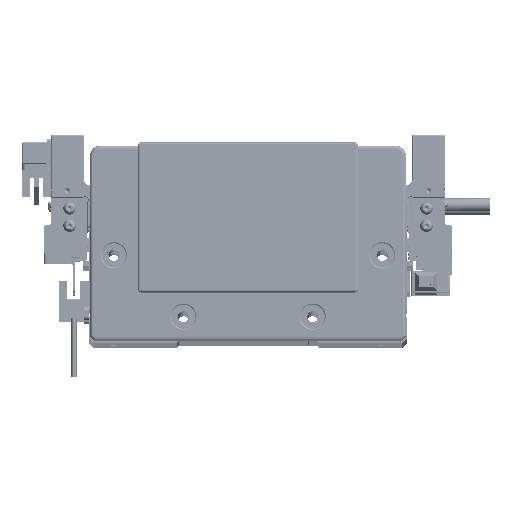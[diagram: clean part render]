
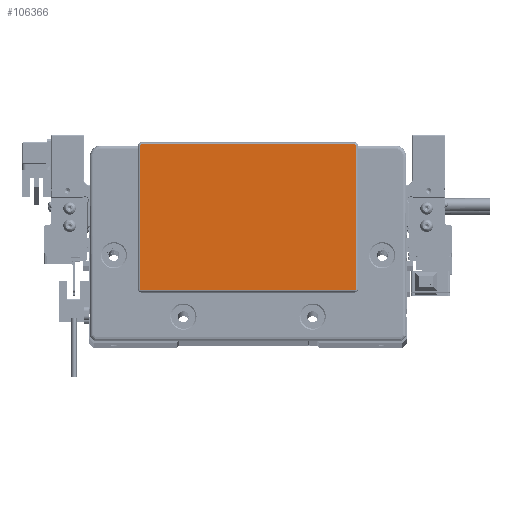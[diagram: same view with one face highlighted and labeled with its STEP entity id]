
A CAD part, top view. The second image highlights one B-rep face of the part: STEP entity #106366.
In plain terms, the highlighted planar face has unit normal (0, 0, 1) as drawn and (0, 0, -1) by its records, which use the part's own axes.
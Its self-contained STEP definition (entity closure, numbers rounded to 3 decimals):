
#452 = VECTOR ( 'NONE', #40681, 1000. ) ;
#3919 = EDGE_CURVE ( 'NONE', #9943, #7478, #99845, .T. ) ;
#3932 = DIRECTION ( 'NONE',  ( -1., 0., 0. ) ) ;
#4473 = CARTESIAN_POINT ( 'NONE',  ( -48.75, -21.8, -2. ) ) ;
#6241 = ORIENTED_EDGE ( 'NONE', *, *, #12644, .T. ) ;
#6953 = DIRECTION ( 'NONE',  ( 0., 0., -1. ) ) ;
#7478 = VERTEX_POINT ( 'NONE', #19777 ) ;
#9428 = ORIENTED_EDGE ( 'NONE', *, *, #3919, .T. ) ;
#9486 = DIRECTION ( 'NONE',  ( 1., 0., 0. ) ) ;
#9943 = VERTEX_POINT ( 'NONE', #68645 ) ;
#12644 = EDGE_CURVE ( 'NONE', #80088, #80001, #35783, .T. ) ;
#15797 = EDGE_LOOP ( 'NONE', ( #106500, #49562, #40965, #6241, #24553, #9428, #108369, #19654 ) ) ;
#18554 = CARTESIAN_POINT ( 'NONE',  ( -48.75, 43.8, -2. ) ) ;
#18858 = EDGE_CURVE ( 'NONE', #80001, #9943, #69506, .T. ) ;
#19098 = CARTESIAN_POINT ( 'NONE',  ( -48.75, -22.3, -2. ) ) ;
#19654 = ORIENTED_EDGE ( 'NONE', *, *, #81423, .T. ) ;
#19777 = CARTESIAN_POINT ( 'NONE',  ( -48.75, 44.3, -2. ) ) ;
#19787 = EDGE_CURVE ( 'NONE', #57233, #93344, #85792, .T. ) ;
#24553 = ORIENTED_EDGE ( 'NONE', *, *, #18858, .T. ) ;
#24745 = DIRECTION ( 'NONE',  ( -1., 0., 0. ) ) ;
#28483 = VECTOR ( 'NONE', #70174, 1000. ) ;
#33594 = CARTESIAN_POINT ( 'NONE',  ( 48.75, 44.3, -2. ) ) ;
#34102 = VERTEX_POINT ( 'NONE', #36887 ) ;
#35783 = CIRCLE ( 'NONE', #67917, 0.5 ) ;
#36430 = EDGE_CURVE ( 'NONE', #93344, #80088, #76904, .T. ) ;
#36887 = CARTESIAN_POINT ( 'NONE',  ( 49.25, 43.8, -2. ) ) ;
#40681 = DIRECTION ( 'NONE',  ( 0., -1., 0. ) ) ;
#40965 = ORIENTED_EDGE ( 'NONE', *, *, #36430, .T. ) ;
#41875 = VERTEX_POINT ( 'NONE', #56342 ) ;
#44403 = VECTOR ( 'NONE', #86390, 1000. ) ;
#47323 = CARTESIAN_POINT ( 'NONE',  ( -49.25, -21.8, -2. ) ) ;
#49562 = ORIENTED_EDGE ( 'NONE', *, *, #19787, .T. ) ;
#49717 = AXIS2_PLACEMENT_3D ( 'NONE', #18554, #52753, #24745 ) ;
#50232 = CARTESIAN_POINT ( 'NONE',  ( 48.75, -21.8, -2. ) ) ;
#50917 = EDGE_CURVE ( 'NONE', #7478, #41875, #51502, .T. ) ;
#51502 = LINE ( 'NONE', #33594, #108738 ) ;
#52753 = DIRECTION ( 'NONE',  ( 0., 0., -1. ) ) ;
#54605 = CARTESIAN_POINT ( 'NONE',  ( -48.75, -22.3, -2. ) ) ;
#56342 = CARTESIAN_POINT ( 'NONE',  ( 48.75, 44.3, -2. ) ) ;
#57084 = AXIS2_PLACEMENT_3D ( 'NONE', #50232, #84473, #67035 ) ;
#57233 = VERTEX_POINT ( 'NONE', #74512 ) ;
#57787 = CARTESIAN_POINT ( 'NONE',  ( 48.75, -22.3, -2. ) ) ;
#57876 = FACE_OUTER_BOUND ( 'NONE', #15797, .T. ) ;
#58564 = LINE ( 'NONE', #75450, #452 ) ;
#58961 = DIRECTION ( 'NONE',  ( 0., 0., -1. ) ) ;
#66014 = EDGE_CURVE ( 'NONE', #34102, #57233, #58564, .T. ) ;
#67035 = DIRECTION ( 'NONE',  ( -1., 0., 0. ) ) ;
#67917 = AXIS2_PLACEMENT_3D ( 'NONE', #4473, #104873, #3932 ) ;
#68645 = CARTESIAN_POINT ( 'NONE',  ( -49.25, 43.8, -2. ) ) ;
#69506 = LINE ( 'NONE', #77399, #44403 ) ;
#70174 = DIRECTION ( 'NONE',  ( -1., 0., 0. ) ) ;
#74512 = CARTESIAN_POINT ( 'NONE',  ( 49.25, -21.8, -2. ) ) ;
#74717 = AXIS2_PLACEMENT_3D ( 'NONE', #84343, #6953, #100615 ) ;
#75450 = CARTESIAN_POINT ( 'NONE',  ( 49.25, -21.8, -2. ) ) ;
#76904 = LINE ( 'NONE', #19098, #28483 ) ;
#76925 = CARTESIAN_POINT ( 'NONE',  ( 0., 0., -2. ) ) ;
#77399 = CARTESIAN_POINT ( 'NONE',  ( -49.25, 43.8, -2. ) ) ;
#80001 = VERTEX_POINT ( 'NONE', #47323 ) ;
#80088 = VERTEX_POINT ( 'NONE', #54605 ) ;
#81423 = EDGE_CURVE ( 'NONE', #41875, #34102, #108767, .T. ) ;
#84343 = CARTESIAN_POINT ( 'NONE',  ( 48.75, 43.8, -2. ) ) ;
#84473 = DIRECTION ( 'NONE',  ( 0., 0., -1. ) ) ;
#85792 = CIRCLE ( 'NONE', #57084, 0.5 ) ;
#86390 = DIRECTION ( 'NONE',  ( 0., 1., 0. ) ) ;
#89246 = AXIS2_PLACEMENT_3D ( 'NONE', #76925, #58961, #109511 ) ;
#92128 = PLANE ( 'NONE',  #89246 ) ;
#93344 = VERTEX_POINT ( 'NONE', #57787 ) ;
#99845 = CIRCLE ( 'NONE', #49717, 0.5 ) ;
#100615 = DIRECTION ( 'NONE',  ( -1., 0., 0. ) ) ;
#104873 = DIRECTION ( 'NONE',  ( 0., 0., -1. ) ) ;
#106366 = ADVANCED_FACE ( 'NONE', ( #57876 ), #92128, .T. ) ;
#106500 = ORIENTED_EDGE ( 'NONE', *, *, #66014, .T. ) ;
#108369 = ORIENTED_EDGE ( 'NONE', *, *, #50917, .T. ) ;
#108738 = VECTOR ( 'NONE', #9486, 1000. ) ;
#108767 = CIRCLE ( 'NONE', #74717, 0.5 ) ;
#109511 = DIRECTION ( 'NONE',  ( -1., 0., 0. ) ) ;
